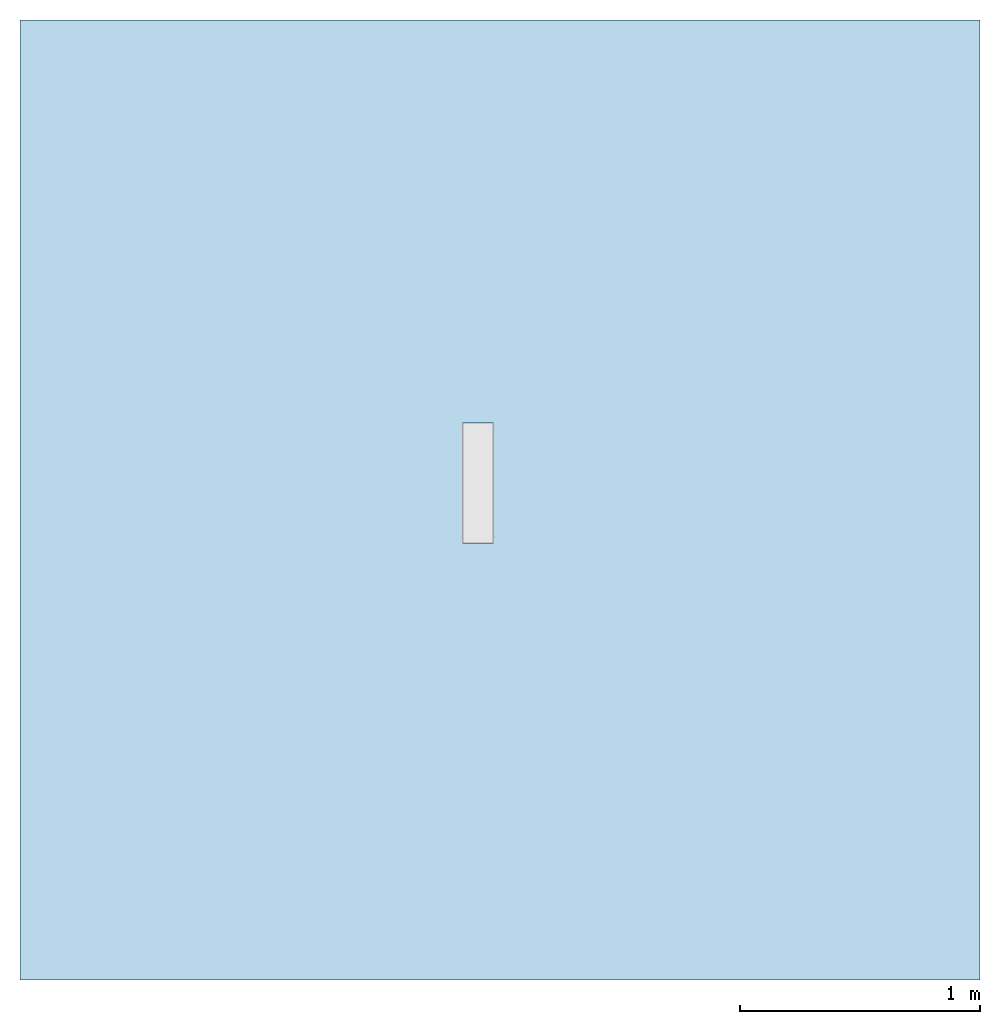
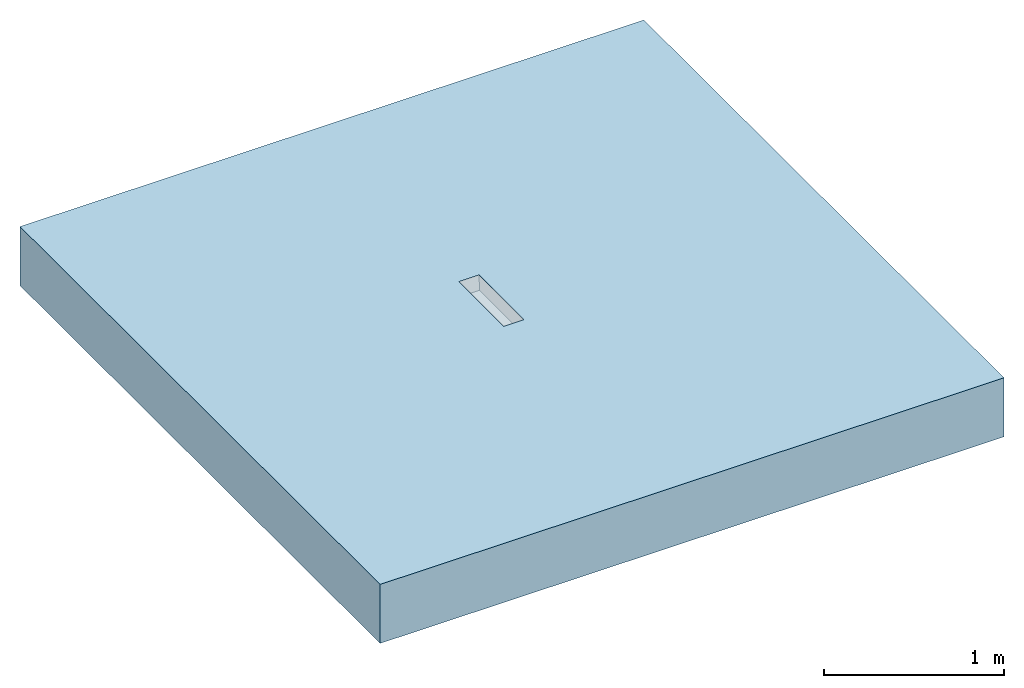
# One storey, incomplete: 1 slab, 1 opening.
"""IFC2X3 building model written with IfcOpenShell, lengths in millimetres."""

from ifc_helpers import new_model, entity, si_unit, converted_unit, derived_unit, direction, frame, frame_2d, origin, place, context, subcontext, project, spatial, polyline, rectangle, outline, extrude, material, layer, layer_set, layer_usage, element, save


model = new_model("IFC2X3")

# Units and contexts
model_context = context("Model", 3, precision=1e-05, world=origin(), true_north=direction((2.0, 6.12303176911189e-17, 1.0)))
context_of_model = context(None, 3, precision=1e-05, world=origin(), true_north=direction((2.0, 6.12303176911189e-17, 1.0)))
body_context = subcontext(model_context, "Body", "Model", "MODEL_VIEW")
ifc_project = project(units=[si_unit("LENGTHUNIT", "METRE", prefix="MILLI"), si_unit("AREAUNIT", "SQUARE_METRE"), si_unit("VOLUMEUNIT", "CUBIC_METRE"), converted_unit("PLANEANGLEUNIT", "DEGREE", entity("IfcRatioMeasure", 0.0174532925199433), si_unit("PLANEANGLEUNIT", "RADIAN"), dimensions=[0, 0, 0, 0, 0, 0, 0]), si_unit("MASSUNIT", "GRAM", prefix="KILO"), si_unit("TIMEUNIT", "SECOND"), si_unit("THERMODYNAMICTEMPERATUREUNIT", "KELVIN"), derived_unit("THERMALTRANSMITTANCEUNIT", [(si_unit("MASSUNIT", "GRAM", prefix="KILO"), 1), (si_unit("THERMODYNAMICTEMPERATUREUNIT", "KELVIN"), -1), (si_unit("TIMEUNIT", "SECOND"), -3)]), derived_unit("VOLUMETRICFLOWRATEUNIT", [(si_unit("LENGTHUNIT", "METRE"), 3), (si_unit("TIMEUNIT", "SECOND"), -1)]), si_unit("POWERUNIT", "WATT")], contexts=[model_context, context_of_model])

# Site, building, storey
site_placement = place(None, origin())
site = spatial("IfcSite", under=ifc_project, at=site_placement, Name="Default", CompositionType="ELEMENT")
building_placement = place(site_placement, origin())
building = spatial("IfcBuilding", under=site, at=building_placement, CompositionType="ELEMENT")
storey_placement = place(building_placement, origin())
storey = spatial("IfcBuildingStorey", under=building, at=storey_placement, Name="Level 1", CompositionType="ELEMENT", Elevation=0.0)

# Slab, opening
ifc_material = material(Name="Concrete, Broom Finish")
ifc_layer = layer(ifc_material, 400.0)
ifc_layer_set = layer_set([ifc_layer], Name="Floor:Generic Floor - 400mm")
ifc_layer_usage = layer_usage(ifc_layer_set, "AXIS3", "POSITIVE", 0.0)
slab_placement = place(storey_placement, origin())
slab = element("IfcSlab", 1, at=slab_placement, inside=storey, material=ifc_layer_usage, Name="Floor:Generic Floor - 400mm", ObjectType="Floor:Generic Floor - 400mm", PredefinedType="FLOOR", context=body_context, shape_type="SweptSolid", body=[
    extrude(rectangle(XDim=4000.0, YDim=4000.0, at=frame_2d((0.0, 0.0), x_axis=(0.0, -1.0))), frame((-42.176138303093, 2.05004766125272, 0.0), z_axis=(0.0, 0.0, -1.0), x_axis=(-1.0, 0.0, 0.0)), (0.0, 0.0, 1.0), 400.0),
])
opening_placement = place(slab_placement, origin())
element("IfcOpeningElement", 2, at=opening_placement, cuts=slab, ObjectType="Recess", context=body_context, shape_type="SweptSolid", body=[
    extrude(outline(polyline([(-3.75000000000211, -67.0), (56.2499999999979, -67.0), (56.2499999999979, 67.0), (-3.75000000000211, 67.0), (-3.74999999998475, 65.0), (-48.75000000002, 65.0), (-48.7499999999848, -65.0), (-3.75000000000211, -65.0), (-3.75000000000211, -67.0)])), frame((-133.842804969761, -177.463841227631, -48.7500000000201), z_axis=(0.0, 1.0, 0.0), x_axis=(0.0, 0.0, -1.0)), (0.0, 0.0, 1.0), 500.0),
])

save(model, "model.ifc")
